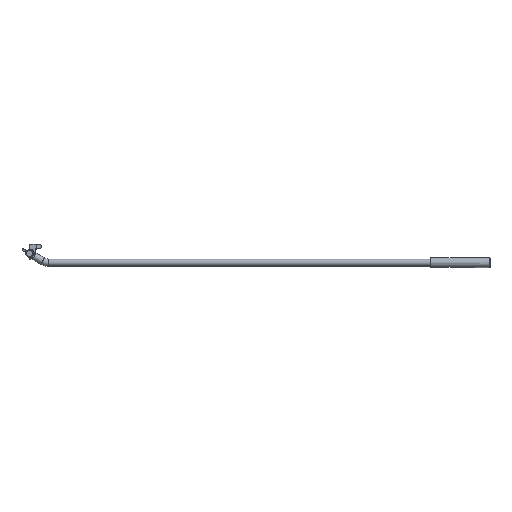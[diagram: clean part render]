
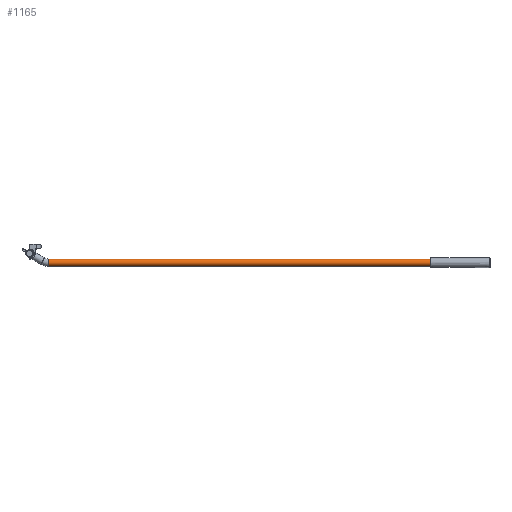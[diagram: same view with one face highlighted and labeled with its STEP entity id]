
A CAD part, left-side view. The second image highlights one B-rep face of the part: STEP entity #1165.
In plain terms, the highlighted cylindrical face has radius 7.9 mm (diameter 15.8 mm), a partial arc.
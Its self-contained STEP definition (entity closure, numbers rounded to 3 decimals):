
#335=CARTESIAN_POINT('',(0.,-41.34,-20.));
#336=DIRECTION('',(0.,1.,0.));
#337=DIRECTION('',(0.,0.,-1.));
#338=AXIS2_PLACEMENT_3D('',#335,#336,#337);
#345=CARTESIAN_POINT('',(0.,-1001.5,-20.));
#346=DIRECTION('',(0.,-1.,0.));
#347=DIRECTION('',(0.,0.,1.));
#348=AXIS2_PLACEMENT_3D('',#345,#346,#347);
#350=DIRECTION('',(0.,1.,0.));
#351=VECTOR('',#350,960.16);
#352=CARTESIAN_POINT('',(0.,-1001.5,
-27.9));
#353=LINE('',#352,#351);
#367=DIRECTION('',(0.,1.,0.));
#368=VECTOR('',#367,960.16);
#369=CARTESIAN_POINT('',(0.,-1001.5,
-12.1));
#370=LINE('',#369,#368);
#557=CARTESIAN_POINT('',(0.,-41.34,-12.1));
#558=CARTESIAN_POINT('',(0.,-41.34,-27.9));
#559=VERTEX_POINT('',#557);
#560=VERTEX_POINT('',#558);
#597=CARTESIAN_POINT('',(0.,-1001.5,-27.9));
#598=CARTESIAN_POINT('',(0.,-1001.5,-12.1));
#599=VERTEX_POINT('',#597);
#600=VERTEX_POINT('',#598);
#1151=CARTESIAN_POINT('',(0.,-1003.,-20.));
#1152=DIRECTION('',(0.,1.,0.));
#1153=DIRECTION('',(0.,0.,1.));
#1154=AXIS2_PLACEMENT_3D('',#1151,#1152,#1153);
#1155=CYLINDRICAL_SURFACE('',#1154,7.9);
#1157=ORIENTED_EDGE('',*,*,#1156,.T.);
#1159=ORIENTED_EDGE('',*,*,#1158,.T.);
#1160=ORIENTED_EDGE('',*,*,#1141,.T.);
#1162=ORIENTED_EDGE('',*,*,#1161,.F.);
#1163=EDGE_LOOP('',(#1157,#1159,#1160,#1162));
#1164=FACE_OUTER_BOUND('',#1163,.F.);
#1165=ADVANCED_FACE('',(#1164),#1155,.T.);
#339=CIRCLE('',#338,7.9);
#349=CIRCLE('',#348,7.9);
#1141=EDGE_CURVE('',#560,#559,#339,.T.);
#1156=EDGE_CURVE('',#600,#599,#349,.T.);
#1158=EDGE_CURVE('',#599,#560,#353,.T.);
#1161=EDGE_CURVE('',#600,#559,#370,.T.);
